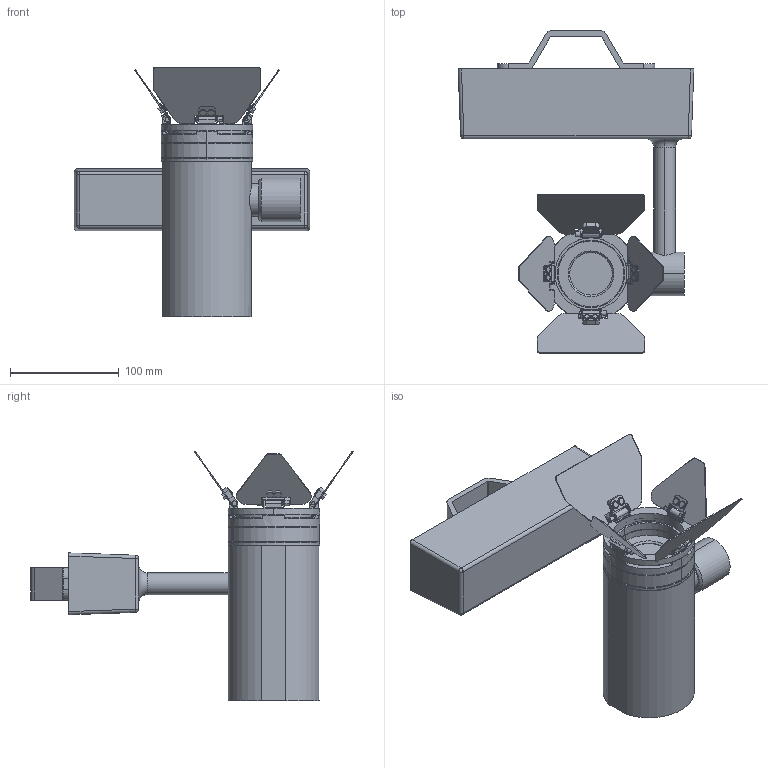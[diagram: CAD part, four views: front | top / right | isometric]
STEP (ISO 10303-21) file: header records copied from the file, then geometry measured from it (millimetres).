
FILE_DESCRIPTION (( 'STEP AP203' ), '1' );
FILE_NAME ('P1X (Clamp_Top Mount_W)_Hanging_10-06-2026.STEP', '2026-06-10T19:20:20', ( '' ), ( '' ), 'SwSTEP 2.0', 'SolidWorks 2014', '' );
FILE_SCHEMA (( 'CONFIG_CONTROL_DESIGN' ));
Length unit declared in the file: millimetre
Products named in the file (4): P1X (Clamp_Top Mount_W)_Hanging_10-06-2026; Top Mount_Yoke+PSU_(Clamp_W); 2.5 inch 4-leaf Barndoor_W; P1X - Light Body_W
Assembly tree (3 placements, depth 2):
  P1X (Clamp_Top Mount_W)_Hanging_10-06-2026
    Top Mount_Yoke+PSU_(Clamp_W)
    P1X - Light Body_W
    2.5 inch 4-leaf Barndoor_W
Bounding box: 216.17 x 295.91 x 229.38 mm (x, y, z)
Volume: 1772674.6 mm3; surface area: 185129.2 mm2
Topology: 3 solids, 11 shells, 510 faces, 1286 edges, 821 vertices
Faces by surface type: plane 307, cylinder 169, cone 28, sphere 4, torus 2
Entity records: 15750 total; most frequent: CARTESIAN_POINT 2776, DIRECTION 2701, ORIENTED_EDGE 2564, EDGE_CURVE 1282, AXIS2_PLACEMENT_3D 916, LINE 869, VECTOR 869, VERTEX_POINT 821
